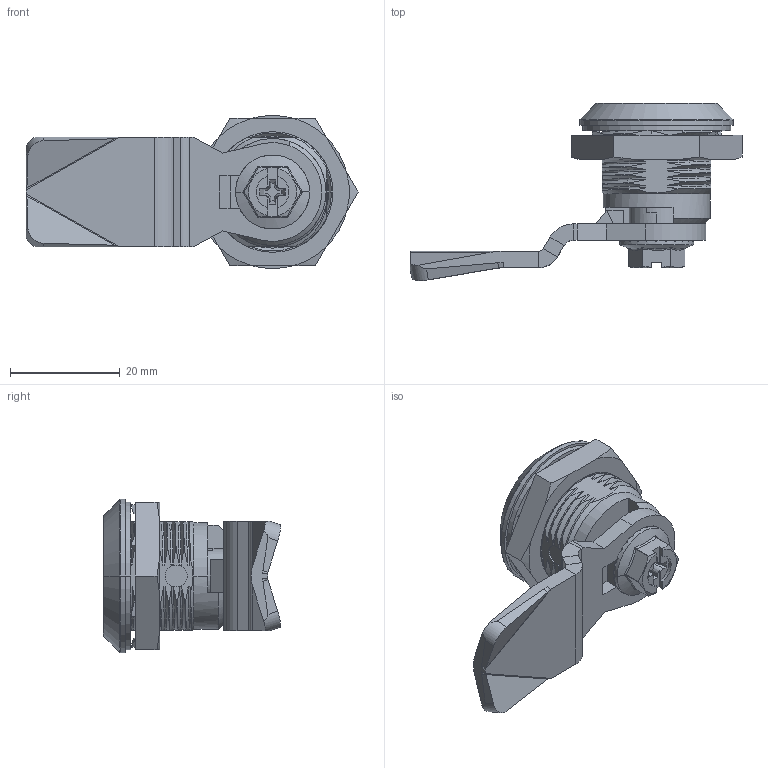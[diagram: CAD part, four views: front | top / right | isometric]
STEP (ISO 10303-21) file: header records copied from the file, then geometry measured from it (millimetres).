
FILE_DESCRIPTION((''),'2;1');
FILE_NAME('A6012-1616_ASM','2025-01-22T16:35:58',('Administrator'),(''),'CREO PARAMETRIC BY PTC INC, 2023073','CREO PARAMETRIC BY PTC INC, 2023073','');
FILE_SCHEMA(('CONFIG_CONTROL_DESIGN'));
Products named in the file (9): 3011-01416; 3715-12616; 3181-01190; 3931-15190; 3903-01145; 3921-22110; 3953-26445; 3721-234505-3045; A6012-1616_ASM
Assembly tree (8 placements, depth 2):
  A6012-1616_ASM
    3011-01416
    3715-12616
    3181-01190
    3931-15190
    3903-01145
    3921-22110
    3953-26445
    3721-234505-3045
Bounding box: 60.59 x 32.34 x 28 mm (x, y, z)
Volume: 11190.6 mm3; surface area: 11144.6 mm2
Topology: 8 solids, 11 shells, 712 faces, 1786 edges, 1104 vertices
Faces by surface type: bspline 244, plane 197, cylinder 165, sphere 48, torus 32, cone 26
Entity records: 52557 total; most frequent: CARTESIAN_POINT 37149, ORIENTED_EDGE 3560, DIRECTION 2565, EDGE_CURVE 1786, VERTEX_POINT 1104, AXIS2_PLACEMENT_3D 947, EDGE_LOOP 740, FACE_OUTER_BOUND 712
